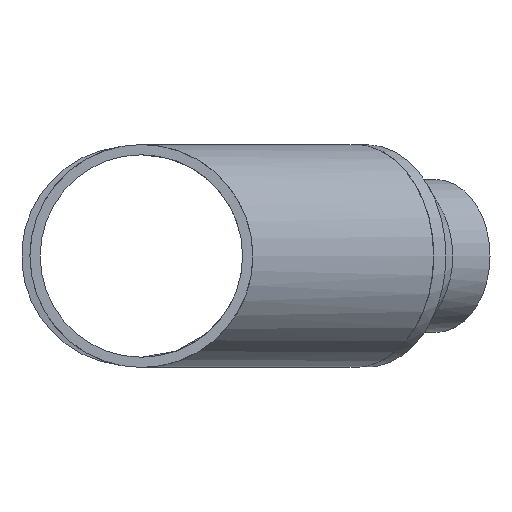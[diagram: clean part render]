
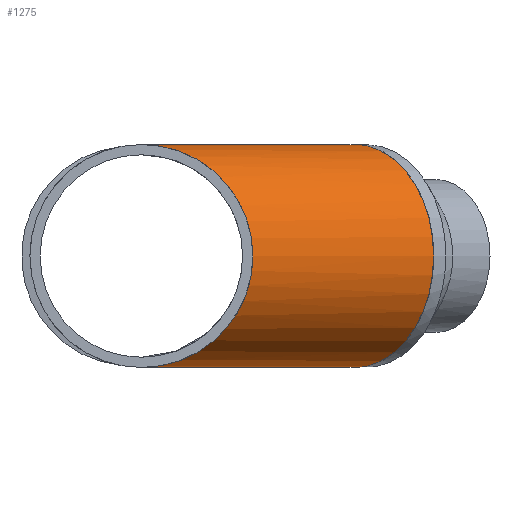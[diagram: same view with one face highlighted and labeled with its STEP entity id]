
A CAD part, front view. The second image highlights one B-rep face of the part: STEP entity #1275.
In plain terms, the highlighted cylindrical face has radius 80.237 mm (diameter 160.475 mm), a full revolution.
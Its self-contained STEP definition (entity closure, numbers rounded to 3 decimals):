
#39=ELLIPSE($,#1396,86.848,80.238);
#40=ELLIPSE($,#1397,209.671,80.238);
#73=FACE_BOUND($,#362,.T.);
#263=FACE_OUTER_BOUND($,#361,.T.);
#361=EDGE_LOOP($,(#1142,#1143));
#362=EDGE_LOOP($,(#1144));
#431=CIRCLE($,#1406,80.238);
#634=VERTEX_POINT($,#3311);
#635=VERTEX_POINT($,#3312);
#641=VERTEX_POINT($,#3328);
#808=EDGE_CURVE($,#634,#635,#39,.T.);
#809=EDGE_CURVE($,#635,#634,#40,.T.);
#815=EDGE_CURVE($,#641,#641,#431,.T.);
#1142=ORIENTED_EDGE($,*,*,#808,.F.);
#1143=ORIENTED_EDGE($,*,*,#809,.F.);
#1144=ORIENTED_EDGE($,*,*,#815,.T.);
#1207=CYLINDRICAL_SURFACE($,#1405,80.238);
#1275=ADVANCED_FACE($,(#263,#73),#1207,.T.);
#1396=AXIS2_PLACEMENT_3D($,#3313,#1680,#1681);
#1397=AXIS2_PLACEMENT_3D($,#3314,#1682,#1683);
#1405=AXIS2_PLACEMENT_3D($,#3327,#1698,#1699);
#1406=AXIS2_PLACEMENT_3D($,#3329,#1700,#1701);
#1680=DIRECTION('center_axis',(-0.383,-0.924,0.));
#1681=DIRECTION('ref_axis',(0.924,-0.383,0.));
#1682=DIRECTION('center_axis',(-0.924,0.383,0.));
#1683=DIRECTION('ref_axis',(-0.383,-0.924,0.));
#1698=DIRECTION('center_axis',(-0.707,-0.707,0.));
#1699=DIRECTION('ref_axis',(0.707,-0.707,0.));
#1700=DIRECTION('center_axis',(-0.707,-0.707,0.));
#1701=DIRECTION('ref_axis',(0.707,-0.707,0.));
#3311=CARTESIAN_POINT('',(0.,140.,-80.238));
#3312=CARTESIAN_POINT('',(0.,140.,80.238));
#3313=CARTESIAN_POINT('Origin',(0.,140.,0.));
#3314=CARTESIAN_POINT('Origin',(0.,140.,0.));
#3327=CARTESIAN_POINT('Origin',(153.796,293.796,0.));
#3328=CARTESIAN_POINT('',(97.059,350.532,0.));
#3329=CARTESIAN_POINT('Origin',(153.796,293.796,0.));
